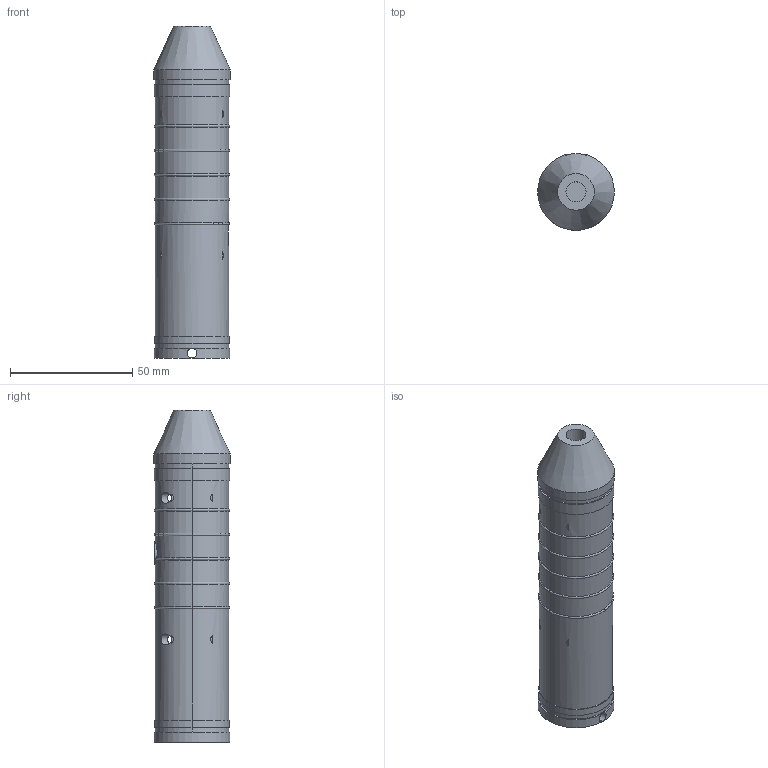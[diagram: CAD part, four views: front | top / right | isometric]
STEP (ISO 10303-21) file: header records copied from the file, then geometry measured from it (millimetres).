
FILE_DESCRIPTION(('Open CASCADE Model'),'2;1');
FILE_NAME('Open CASCADE Shape Model','2026-08-22T00:00:00',('Author'),( 'Open CASCADE'),'Open CASCADE STEP processor 7.8','build123d', 'Unknown');
FILE_SCHEMA(('AUTOMOTIVE_DESIGN { 1 0 10303 214 1 1 1 1 }'));
Length unit declared in the file: millimetre
Products named in the file (32): ASSEMBLY; MW-P-001A_UPPER_PRINTED_SHELL; MW-P-001B_LOWER_PRINTED_SHELL; MW-P-002_PCB_AND_BATTERY_CARRIER; SOLID; MW-P-003_REAR_CAP_WITH_LANYARD; MW-P-004_ROD_CONNECTOR_8MM; MW-P-005_PRESS_TO_ARM_PLUNGER; WAND_PCB_RESERVED_VOLUME; PROTECTED_1S_LIPO_RESERVED_VOLUME
Assembly tree (31 placements, depth 5):
  ASSEMBLY
    ASSEMBLY
      MW-P-001A_UPPER_PRINTED_SHELL
      MW-P-001B_LOWER_PRINTED_SHELL
      MW-P-002_PCB_AND_BATTERY_CARRIER
        SOLID
        SOLID
        ASSEMBLY
          SOLID
        ASSEMBLY
          SOLID
        ASSEMBLY
          SOLID
        ASSEMBLY
          SOLID
        ASSEMBLY
          SOLID
        ASSEMBLY
          SOLID
        ASSEMBLY
          SOLID
        ASSEMBLY
          SOLID
        ASSEMBLY
          SOLID
      MW-P-003_REAR_CAP_WITH_LANYARD
      MW-P-004_ROD_CONNECTOR_8MM
      MW-P-005_PRESS_TO_ARM_PLUNGER
    WAND_PCB_RESERVED_VOLUME
      SOLID
    PROTECTED_1S_LIPO_RESERVED_VOLUME
      SOLID
Bounding box: 31.4 x 31.4 x 136 mm (x, y, z)
Volume: 48980.8 mm3; surface area: 38781.4 mm2
Topology: 18 solids, 18 shells, 254 faces, 628 edges, 416 vertices
Faces by surface type: plane 167, cylinder 72, torus 12, cone 3
Full cylindrical faces by diameter (mm): 1.7 x4, 2.4 x4, 3.5 x1, 4.1 x1, 4.4 x3, 4.5 x4, 4.6 x1, 5.1 x1, 5.3 x3, 8.2 x1, 9.2 x2, 31.4 x1
Entity records: 26834 total; most frequent: CARTESIAN_POINT 13963, DIRECTION 2156, ORIENTED_EDGE 1258, PCURVE 1256, DEFINITIONAL_REPRESENTATION 1256, LINE 1110, VECTOR 1110, EDGE_CURVE 628
